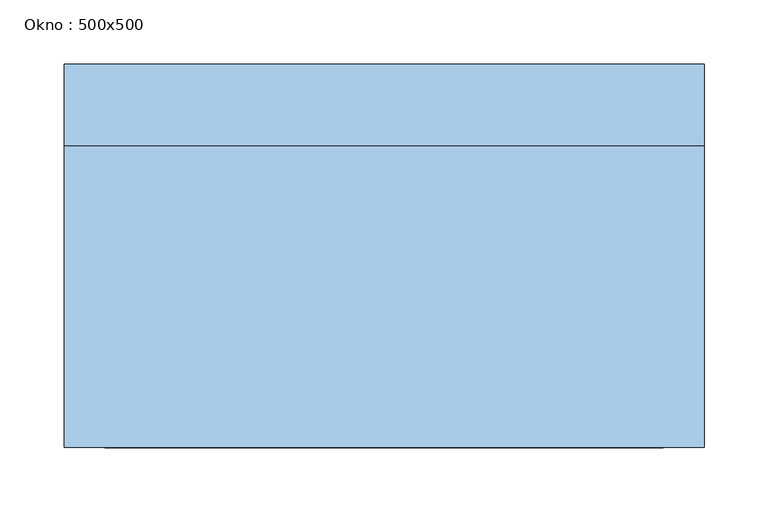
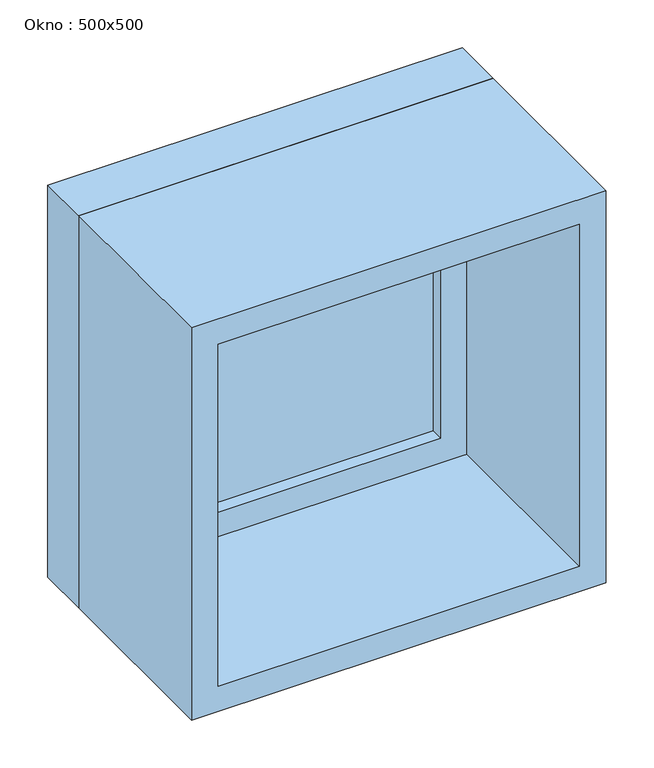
"""IFC4 building model written with IfcOpenShell, lengths in millimetres: window geometry, Okno : 500x500."""

import ifcopenshell
import ifcopenshell.guid

model = None  # the IFC model being written
_history = None  # IfcOwnerHistory: only IFC2X3 demands one
_inside = {}  # id of a spatial element -> (the spatial element, [elements in it])
_under = {}  # id of a project, library or spatial element -> (it, [spatial elements below it])
_declared = {}  # id of a project -> (the project, [libraries it declares])
_typed = {}  # id of a type object -> (the type object, [elements of that type])
_made_of = {}  # id of a material, layer set ... -> (it, [elements and type objects made of it])


def new_model(schema):
    """Start an empty IFC model of exactly this schema.

    Asked for "IFC4X3", IfcOpenShell would pick the latest addendum, in which some entities
    have other attributes; the version numbers below select the first issue.
    IFC2X3 requires an IfcOwnerHistory on every rooted entity: one is made here for all.
    """
    global model, _history
    if schema == "IFC4X3":
        model = ifcopenshell.file(schema_version=(4, 3, 0, 0))
    else:
        model = ifcopenshell.file(schema=schema)
    _inside.clear()
    _under.clear()
    _declared.clear()
    _typed.clear()
    _made_of.clear()
    _history = None
    if model.schema == "IFC2X3":
        org = make("IfcOrganization", Name="unknown")
        user = make(
            "IfcPersonAndOrganization",
            ThePerson=make("IfcPerson", FamilyName="unknown"),
            TheOrganization=org,
        )
        app = make(
            "IfcApplication",
            ApplicationDeveloper=org,
            Version="unknown",
            ApplicationFullName="unknown",
            ApplicationIdentifier="unknown",
        )
        _history = make(
            "IfcOwnerHistory",
            OwningUser=user,
            OwningApplication=app,
            ChangeAction="ADDED",
            CreationDate=0,
        )
    return model


def make(cls, **values):
    """One entity of the class cls with the attributes given. An attribute that is None is left unset."""
    return model.create_entity(
        cls, **{name: value for name, value in values.items() if value is not None}
    )


def rooted(cls, **values):
    """An entity with a GlobalId (a new one), such as an element, a storey or a relation."""
    return make(cls, GlobalId=ifcopenshell.guid.new(), OwnerHistory=_history, **values)


def si_unit(unit_type, name, prefix=None):
    """IfcSIUnit, for example si_unit("LENGTHUNIT", "METRE", prefix="MILLI")."""
    return make("IfcSIUnit", UnitType=unit_type, Prefix=prefix, Name=name)


def assignment(units):
    """IfcUnitAssignment: the units of a project."""
    return None if units is None else make("IfcUnitAssignment", Units=units)


def point(xyz):
    """IfcCartesianPoint."""
    return None if xyz is None else make("IfcCartesianPoint", Coordinates=xyz)


def direction(xyz):
    """IfcDirection."""
    return None if xyz is None else make("IfcDirection", DirectionRatios=xyz)


def frame(location, z_axis=None, x_axis=None):
    """IfcAxis2Placement3D, a coordinate frame: its origin and axes. An axis left out is left unset."""
    return make(
        "IfcAxis2Placement3D",
        Location=point(location),
        Axis=direction(z_axis),
        RefDirection=direction(x_axis),
    )


def origin():
    """The frame at (0, 0, 0) with its axes left unset."""
    return frame((0.0, 0.0, 0.0))


def place(relative_to, where):
    """IfcLocalPlacement: puts the frame where relative to a parent placement (None: the world)."""
    return make(
        "IfcLocalPlacement", PlacementRelTo=relative_to, RelativePlacement=where
    )


def context(
    kind, dimensions, precision=None, world=None, true_north=None, identifier=None
):
    """IfcGeometricRepresentationContext, for example the 3D "Model" context."""
    return make(
        "IfcGeometricRepresentationContext",
        ContextIdentifier=identifier,
        ContextType=kind,
        CoordinateSpaceDimension=dimensions,
        Precision=precision,
        WorldCoordinateSystem=world,
        TrueNorth=true_north,
    )


def project(units=None, contexts=None):
    """IfcProject with its units and contexts."""
    return rooted(
        "IfcProject",
        Name="project",
        RepresentationContexts=contexts,
        UnitsInContext=assignment(units),
    )


def spatial(cls, under=None, at=None, **own):
    """A site, building, storey or space (cls), placed at a placement, below another one or the project."""
    s = rooted(cls, ObjectPlacement=at, **own)
    if under is not None:
        _under.setdefault(under.id(), (under, []))[1].append(s)
    return s


def polyline(points):
    """IfcPolyline through the points."""
    return make("IfcPolyline", Points=[point(p) for p in points])


def outline(outer, holes=None, kind="AREA"):
    """IfcArbitraryClosedProfileDef: a profile drawn as a closed curve; with holes, ...WithVoids."""
    if holes is None:
        return make("IfcArbitraryClosedProfileDef", ProfileType=kind, OuterCurve=outer)
    return make(
        "IfcArbitraryProfileDefWithVoids",
        ProfileType=kind,
        OuterCurve=outer,
        InnerCurves=holes,
    )


def extrude(swept, where, along, depth):
    """IfcExtrudedAreaSolid: the profile swept, set in the frame where, extruded along a direction by depth."""
    return make(
        "IfcExtrudedAreaSolid",
        SweptArea=swept,
        Position=where,
        ExtrudedDirection=direction(along),
        Depth=depth,
    )


def shape(context_of_items, identifier, shape_type, items):
    """IfcShapeRepresentation: the items that make up one representation, for example the "Body"."""
    return make(
        "IfcShapeRepresentation",
        ContextOfItems=context_of_items,
        RepresentationIdentifier=identifier,
        RepresentationType=shape_type,
        Items=items,
    )


def source(mapping_origin, context_of_items, identifier, shape_type, items):
    """IfcRepresentationMap: a shape defined once, which mapped items show again and again."""
    return make(
        "IfcRepresentationMap",
        MappingOrigin=mapping_origin,
        MappedRepresentation=shape(context_of_items, identifier, shape_type, items),
    )


def transform(
    local_origin,
    x_axis=None,
    y_axis=None,
    z_axis=None,
    scale=None,
    scale2=None,
    scale3=None,
    uniform=True,
):
    """IfcCartesianTransformationOperator3D, or its non-uniform kind. x_axis, y_axis, z_axis: its Axis1, 2, 3."""
    if uniform:
        return make(
            "IfcCartesianTransformationOperator3D",
            Axis1=direction(x_axis),
            Axis2=direction(y_axis),
            LocalOrigin=point(local_origin),
            Scale=scale,
            Axis3=direction(z_axis),
        )
    return make(
        "IfcCartesianTransformationOperator3DnonUniform",
        Axis1=direction(x_axis),
        Axis2=direction(y_axis),
        LocalOrigin=point(local_origin),
        Scale=scale,
        Axis3=direction(z_axis),
        Scale2=scale2,
        Scale3=scale3,
    )


def mapped(mapping_source, mapping_target):
    """IfcMappedItem: shows the shape of a source again, moved by a transform."""
    return make(
        "IfcMappedItem", MappingSource=mapping_source, MappingTarget=mapping_target
    )


def made_of(thing, what):
    """Note that an element or type object is made of a material, layer set ...; save() writes the relation."""
    if what is not None:
        _made_of.setdefault(what.id(), (what, []))[1].append(thing)
    return thing


def element(
    cls,
    number,
    at=None,
    inside=None,
    cuts=None,
    type_object=None,
    material=None,
    context=None,
    identifier="Body",
    shape_type=None,
    held_by="IfcProductDefinitionShape",
    body=None,
    shapes=None,
    **own,
):
    """One element of the class cls, such as IfcWall. Its Tag is "e" and its number.

    at: its placement. inside: the storey or other place that contains it. cuts: it is an
    opening in that element (IfcRelVoidsElement). A single representation is given by context,
    identifier, shape_type and body (its items); several are given by shapes. held_by: the class
    of the entity that holds the representations. save() writes the other relations.
    """
    e = rooted(cls, Tag="e%d" % number, ObjectPlacement=at, **own)
    if body is not None:
        shapes = [shape(context, identifier, shape_type, body)]
    if shapes is not None:
        e.Representation = make(held_by, Representations=shapes)
    if inside is not None:
        _inside.setdefault(inside.id(), (inside, []))[1].append(e)
    if cuts is not None:
        rooted(
            "IfcRelVoidsElement", RelatingBuildingElement=cuts, RelatedOpeningElement=e
        )
    if type_object is not None:
        _typed.setdefault(type_object.id(), (type_object, []))[1].append(e)
    return made_of(e, material)


def aggregate(whole, parts):
    """IfcRelAggregates: a whole, such as a stair, and the parts it consists of."""
    return rooted("IfcRelAggregates", RelatingObject=whole, RelatedObjects=parts)


def save(model, path):
    """Write the relations noted so far, then the file.

    IfcRelAggregates (storeys below a building ...), IfcRelContainedInSpatialStructure (elements
    in a storey), IfcRelDefinesByType, IfcRelAssociatesMaterial and IfcRelDeclares: one each for
    every whole, place, type object, material and project.
    """
    for whole, parts in _under.values():
        aggregate(whole, parts)
    for where, things in _inside.values():
        rooted(
            "IfcRelContainedInSpatialStructure",
            RelatedElements=things,
            RelatingStructure=where,
        )
    for kind, things in _typed.values():
        rooted("IfcRelDefinesByType", RelatedObjects=things, RelatingType=kind)
    for what, things in _made_of.values():
        rooted("IfcRelAssociatesMaterial", RelatedObjects=things, RelatingMaterial=what)
    for by, libraries in _declared.values():
        rooted("IfcRelDeclares", RelatingContext=by, RelatedDefinitions=libraries)
    model.write(path)


def okno_500x500_e55a055e(model_context):
    return source(origin(), model_context, "Body", "SweptSolid", [
        extrude(outline(polyline([(-187.0, 127.0), (187.0, 127.0), (187.0, 115.0), (-187.0, 115.0), (-187.0, 127.0)])), frame((0.0, 0.0, 63.0), z_axis=(0.0, 0.0, 1.0), x_axis=(1.0, 0.0, 0.0)), (0.0, 0.0, 1.0), 374.0),
        extrude(outline(polyline([(481.0, -231.0), (19.0, -231.0), (19.0, 231.0), (481.0, 231.0), (481.0, -231.0)]), holes=[polyline([(437.0, -187.0), (437.0, 187.0), (63.0, 187.0), (63.0, -187.0), (437.0, -187.0)])]), frame((0.0, 99.0, 0.0), z_axis=(0.0, 1.0, 0.0), x_axis=(0.0, 0.0, 1.0)), (0.0, 0.0, 1.0), 44.0),
        extrude(outline(polyline([(500.0, -250.0), (0.0, -250.0), (0.0, 250.0), (500.0, 250.0), (500.0, -250.0)]), holes=[polyline([(481.0, -231.0), (481.0, 231.0), (19.0, 231.0), (19.0, -231.0), (481.0, -231.0)])]), frame((0.0, 99.0, 0.0), z_axis=(0.0, 1.0, 0.0), x_axis=(0.0, 0.0, 1.0)), (0.0, 0.0, 1.0), 64.0),
        extrude(outline(polyline([(500.0, -250.0), (0.0, -250.0), (0.0, 250.0), (500.0, 250.0), (500.0, -250.0)]), holes=[polyline([(468.0, -218.0), (468.0, 218.0), (32.0, 218.0), (32.0, -218.0), (468.0, -218.0)])]), frame((0.0, -137.0, 0.0), z_axis=(0.0, 1.0, 0.0), x_axis=(0.0, 0.0, 1.0)), (0.0, 0.0, 1.0), 236.0),
    ])


if __name__ == "__main__":
    model = new_model("IFC4")
    model_context = context("Model", 3, world=origin())
    ifc_project = project(units=[si_unit("LENGTHUNIT", "METRE", prefix="MILLI")], contexts=[model_context])
    site = spatial("IfcSite", under=ifc_project)
    building = spatial("IfcBuilding", under=site)
    placement = place(None, origin())
    okno_500x500_shape = okno_500x500_e55a055e(model_context)
    element("IfcWindow", 1, ObjectType="Okno : 500x500", at=placement, inside=building, context=model_context, shape_type="MappedRepresentation", body=[
        mapped(okno_500x500_shape, transform((0.0, 0.0, 0.0), x_axis=(1.0, 0.0, 0.0), y_axis=(0.0, 1.0, 0.0), z_axis=(0.0, 0.0, 1.0))),
    ])
    save(model, "model.ifc")
